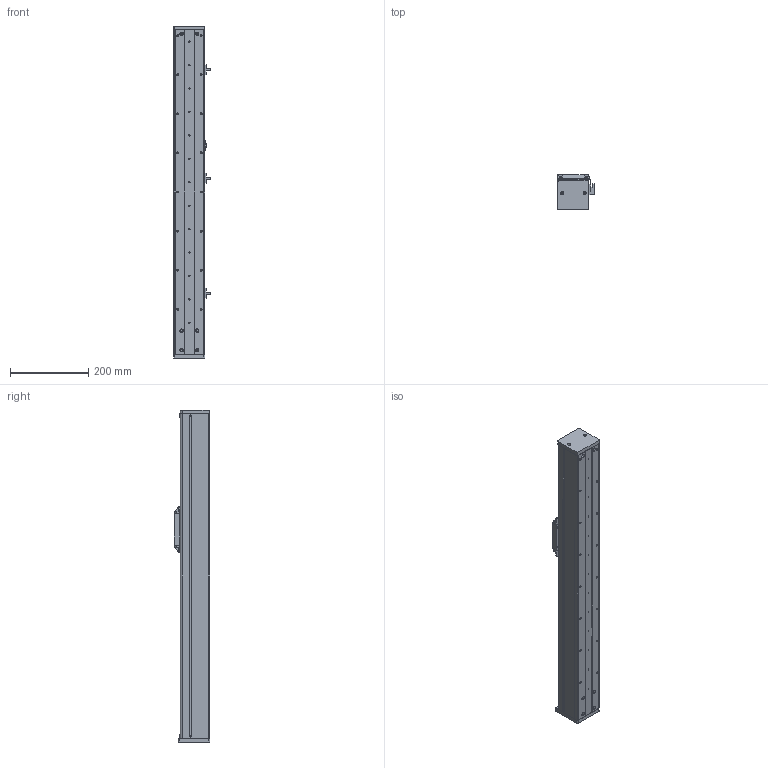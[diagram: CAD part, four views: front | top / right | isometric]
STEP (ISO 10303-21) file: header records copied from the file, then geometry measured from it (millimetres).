
FILE_DESCRIPTION (( 'STEP AP214' ), '1' );
FILE_NAME ('CF80-C-600-FW.STEP', '2020-01-15T07:51:05', ( '微软用户' ), ( '微软中国' ), 'SwSTEP 2.0', 'SolidWorks 2016', '' );
FILE_SCHEMA (( 'AUTOMOTIVE_DESIGN' ));
Length unit declared in the file: millimetre
Products named in the file (15): EGW15CA賑輸; CF80墙板-600; CF80菁釱-600; CF80-C-600-FW; 壽萇羲壽覜茼え; 嫖萇羲壽; CF80詩湍揤啣2; CF80耜啣; CF80詩湍-600; CF80盓傅釱; CF80-祭輛57萇儂假蚾啣; 賑雄輸裔啣; CFN80嘐隅釱; CF80賑雄輸; EGR15絳寢-600
Assembly tree (18 placements, depth 2):
  CF80-C-600-FW
    CF80菁釱-600
    CF80墙板-600  x2
    EGW15CA賑輸
    EGR15絳寢-600
    CF80賑雄輸
    CFN80嘐隅釱
    賑雄輸裔啣
    CF80-祭輛57萇儂假蚾啣
    CF80盓傅釱
    CF80詩湍-600
    CF80耜啣
    CF80詩湍揤啣2  x2
    嫖萇羲壽  x3
    壽萇羲壽覜茼え
Bounding box: 93.5 x 91 x 850 mm (x, y, z)
Volume: 1856636.3 mm3; surface area: 821264.5 mm2
Topology: 18 solids, 18 shells, 857 faces, 2450 edges, 1614 vertices
Faces by surface type: plane 427, cylinder 414, cone 16
Entity records: 28175 total; most frequent: CARTESIAN_POINT 5638, DIRECTION 4385, ORIENTED_EDGE 4314, EDGE_CURVE 2157, AXIS2_PLACEMENT_3D 1577, VERTEX_POINT 1428, VECTOR 1231, LINE 1231
